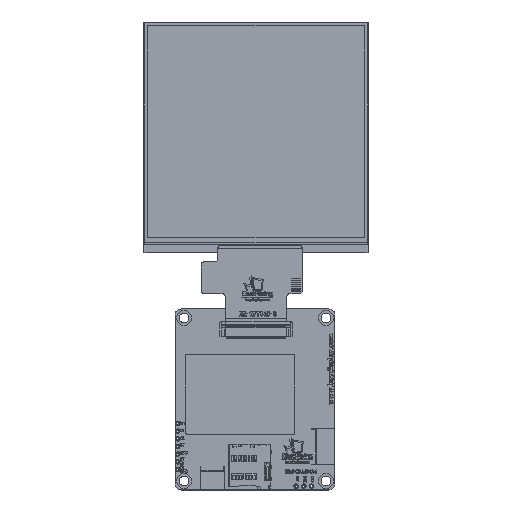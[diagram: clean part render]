
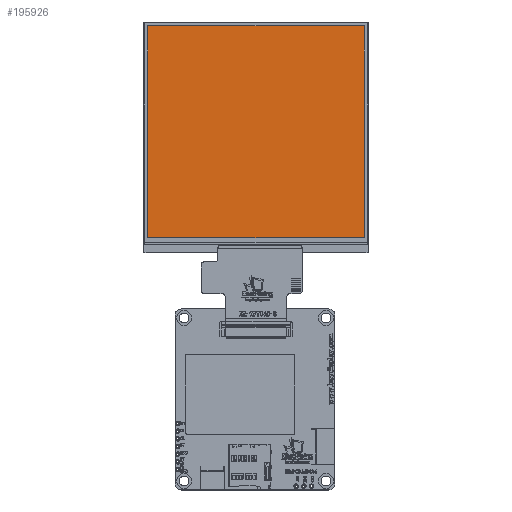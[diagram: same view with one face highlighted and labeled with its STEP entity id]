
A CAD part, top view. The second image highlights one B-rep face of the part: STEP entity #195926.
In plain terms, the highlighted planar face has unit normal (0, 0, 1).
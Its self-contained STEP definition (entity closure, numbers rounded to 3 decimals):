
#4191 = EDGE_CURVE ( 'NONE', #276883, #165500, #130872, .T. ) ;
#21801 = DIRECTION ( 'NONE',  ( 0., -1., 0. ) ) ;
#32226 = LINE ( 'NONE', #277646, #262672 ) ;
#42718 = DIRECTION ( 'NONE',  ( 1., 0., 0. ) ) ;
#44026 = DIRECTION ( 'NONE',  ( 0., 1., 0. ) ) ;
#62636 = ORIENTED_EDGE ( 'NONE', *, *, #278446, .F. ) ;
#64535 = DIRECTION ( 'NONE',  ( 1., 0., 0. ) ) ;
#83480 = VECTOR ( 'NONE', #21801, 1000. ) ;
#94556 = EDGE_LOOP ( 'NONE', ( #122958, #254780, #62636, #228751 ) ) ;
#99472 = VECTOR ( 'NONE', #64535, 1000. ) ;
#104270 = CARTESIAN_POINT ( 'NONE',  ( 35.93, -33.21, 2.08 ) ) ;
#118200 = EDGE_CURVE ( 'NONE', #221887, #276883, #238972, .T. ) ;
#122958 = ORIENTED_EDGE ( 'NONE', *, *, #118200, .F. ) ;
#123028 = VECTOR ( 'NONE', #44026, 1000. ) ;
#130872 = LINE ( 'NONE', #132329, #99472 ) ;
#132329 = CARTESIAN_POINT ( 'NONE',  ( 0., 36.97, 2.08 ) ) ;
#152466 = CARTESIAN_POINT ( 'NONE',  ( 0., 0., 2.08 ) ) ;
#161045 = CARTESIAN_POINT ( 'NONE',  ( -35.93, -33.21, 2.08 ) ) ;
#165500 = VERTEX_POINT ( 'NONE', #220332 ) ;
#169353 = DIRECTION ( 'NONE',  ( -1., 0., 0. ) ) ;
#194291 = DIRECTION ( 'NONE',  ( 0., 0., 1. ) ) ;
#195926 = ADVANCED_FACE ( 'NONE', ( #266467 ), #283824, .T. ) ;
#220332 = CARTESIAN_POINT ( 'NONE',  ( 35.93, 36.97, 2.08 ) ) ;
#221887 = VERTEX_POINT ( 'NONE', #161045 ) ;
#228751 = ORIENTED_EDGE ( 'NONE', *, *, #4191, .F. ) ;
#231283 = EDGE_CURVE ( 'NONE', #253539, #221887, #32226, .T. ) ;
#238972 = LINE ( 'NONE', #241822, #123028 ) ;
#241212 = LINE ( 'NONE', #284511, #83480 ) ;
#241822 = CARTESIAN_POINT ( 'NONE',  ( -35.93, 0., 2.08 ) ) ;
#253539 = VERTEX_POINT ( 'NONE', #104270 ) ;
#253632 = AXIS2_PLACEMENT_3D ( 'NONE', #152466, #194291, #42718 ) ;
#254780 = ORIENTED_EDGE ( 'NONE', *, *, #231283, .F. ) ;
#262672 = VECTOR ( 'NONE', #169353, 1000. ) ;
#266189 = CARTESIAN_POINT ( 'NONE',  ( -35.93, 36.97, 2.08 ) ) ;
#266467 = FACE_OUTER_BOUND ( 'NONE', #94556, .T. ) ;
#276883 = VERTEX_POINT ( 'NONE', #266189 ) ;
#277646 = CARTESIAN_POINT ( 'NONE',  ( 0., -33.21, 2.08 ) ) ;
#278446 = EDGE_CURVE ( 'NONE', #165500, #253539, #241212, .T. ) ;
#283824 = PLANE ( 'NONE',  #253632 ) ;
#284511 = CARTESIAN_POINT ( 'NONE',  ( 35.93, 0., 2.08 ) ) ;
